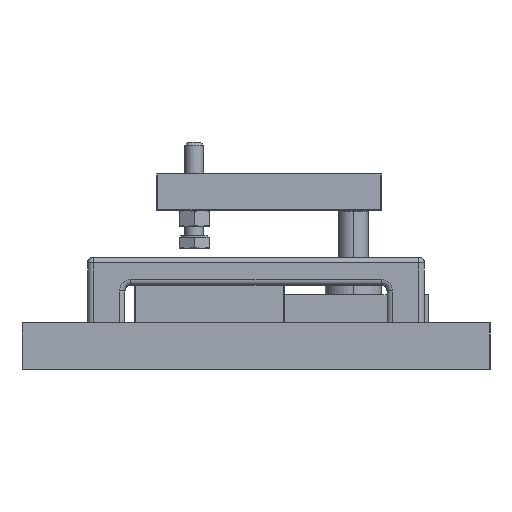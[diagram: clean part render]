
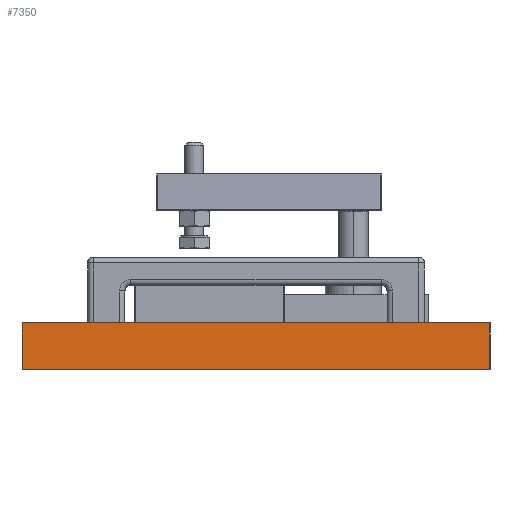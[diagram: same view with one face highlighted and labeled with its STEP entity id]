
A CAD part, left-side view. The second image highlights one B-rep face of the part: STEP entity #7350.
In plain terms, the highlighted planar face has unit normal (-1, 0, 0).
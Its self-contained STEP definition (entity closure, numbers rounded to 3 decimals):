
#7337=AXIS2_PLACEMENT_3D('Plane Axis2P3D',#7334,#7335,#7336) ;
#46=CARTESIAN_POINT('Line Origine',(-150.,-25.,25.)) ;
#50=CARTESIAN_POINT('Vertex',(-150.,100.,25.)) ;
#52=CARTESIAN_POINT('Vertex',(-150.,-150.,25.)) ;
#7271=CARTESIAN_POINT('Vertex',(-150.,100.,0.)) ;
#7274=CARTESIAN_POINT('Line Origine',(-150.,100.,12.5)) ;
#7315=CARTESIAN_POINT('Line Origine',(-150.,-150.,12.5)) ;
#7319=CARTESIAN_POINT('Vertex',(-150.,-150.,0.)) ;
#7334=CARTESIAN_POINT('Axis2P3D Location',(-150.,100.,0.)) ;
#7339=CARTESIAN_POINT('Line Origine',(-150.,-25.,0.)) ;
#47=DIRECTION('Vector Direction',(0.,-1.,0.)) ;
#7275=DIRECTION('Vector Direction',(0.,0.,1.)) ;
#7316=DIRECTION('Vector Direction',(0.,0.,1.)) ;
#7335=DIRECTION('Axis2P3D Direction',(-1.,0.,0.)) ;
#7336=DIRECTION('Axis2P3D XDirection',(0.,-1.,0.)) ;
#7340=DIRECTION('Vector Direction',(0.,-1.,0.)) ;
#48=VECTOR('Line Direction',#47,1.) ;
#7276=VECTOR('Line Direction',#7275,1.) ;
#7317=VECTOR('Line Direction',#7316,1.) ;
#7341=VECTOR('Line Direction',#7340,1.) ;
#7345=ORIENTED_EDGE('',*,*,#7278,.F.) ;
#7346=ORIENTED_EDGE('',*,*,#7343,.T.) ;
#7347=ORIENTED_EDGE('',*,*,#7321,.T.) ;
#7348=ORIENTED_EDGE('',*,*,#54,.F.) ;
#7350=ADVANCED_FACE('\X2\96F64EF651E04F554F53\X0\',(#7349),#7338,.T.) ;
#54=EDGE_CURVE('',#51,#53,#49,.T.) ;
#7278=EDGE_CURVE('',#7272,#51,#7277,.T.) ;
#7321=EDGE_CURVE('',#7320,#53,#7318,.T.) ;
#7343=EDGE_CURVE('',#7272,#7320,#7342,.T.) ;
#7344=EDGE_LOOP('',(#7345,#7346,#7347,#7348)) ;
#7349=FACE_OUTER_BOUND('',#7344,.T.) ;
#49=LINE('Line',#46,#48) ;
#7277=LINE('Line',#7274,#7276) ;
#7318=LINE('Line',#7315,#7317) ;
#7342=LINE('Line',#7339,#7341) ;
#7338=PLANE('Plane',#7337) ;
#51=VERTEX_POINT('',#50) ;
#53=VERTEX_POINT('',#52) ;
#7272=VERTEX_POINT('',#7271) ;
#7320=VERTEX_POINT('',#7319) ;
